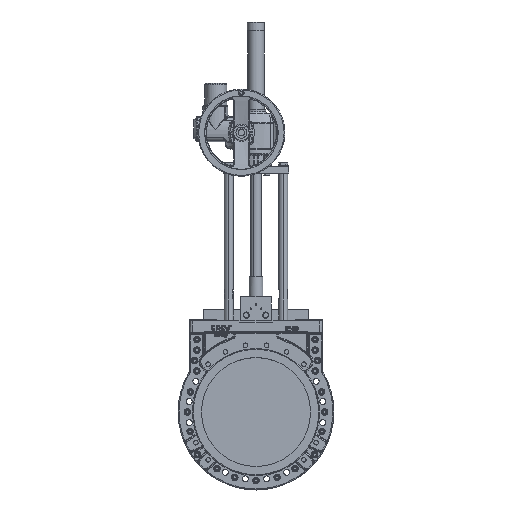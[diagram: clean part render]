
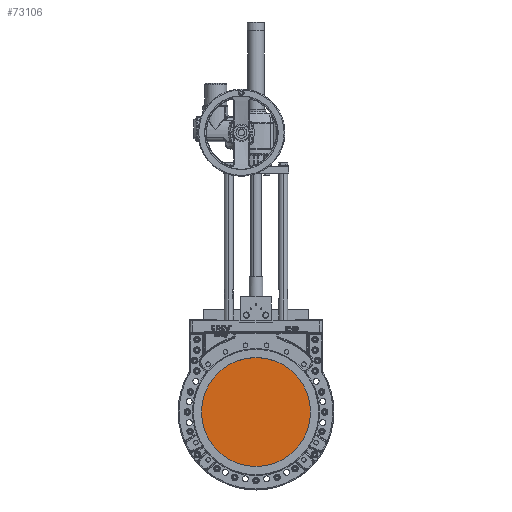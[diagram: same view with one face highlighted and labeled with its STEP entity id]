
A CAD part, top view. The second image highlights one B-rep face of the part: STEP entity #73106.
In plain terms, the highlighted planar face has unit normal (0, 0, 1).
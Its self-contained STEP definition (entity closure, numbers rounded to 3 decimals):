
#13997 = AXIS2_PLACEMENT_3D ( 'NONE', #85479, #194167, #101152 ) ;
#20518 = CARTESIAN_POINT ( 'NONE',  ( 0., 0., -0.25 ) ) ;
#47285 = CARTESIAN_POINT ( 'NONE',  ( 0., 0., -0.25 ) ) ;
#51815 = DIRECTION ( 'NONE',  ( 0., 0., 1. ) ) ;
#60079 = FACE_OUTER_BOUND ( 'NONE', #179344, .T. ) ;
#62947 = DIRECTION ( 'NONE',  ( 1., 0., 0. ) ) ;
#73106 = ADVANCED_FACE ( 'NONE', ( #60079 ), #98170, .T. ) ;
#85479 = CARTESIAN_POINT ( 'NONE',  ( 0., 0., -0.25 ) ) ;
#90614 = CIRCLE ( 'NONE', #13997, 250. ) ;
#98170 = PLANE ( 'NONE',  #107119 ) ;
#101152 = DIRECTION ( 'NONE',  ( 1., 0., 0. ) ) ;
#107119 = AXIS2_PLACEMENT_3D ( 'NONE', #20518, #51815, #160742 ) ;
#107631 = CARTESIAN_POINT ( 'NONE',  ( 250., 0., -0.25 ) ) ;
#119685 = CIRCLE ( 'NONE', #182272, 250. ) ;
#133724 = VERTEX_POINT ( 'NONE', #107631 ) ;
#134204 = VERTEX_POINT ( 'NONE', #173922 ) ;
#156200 = DIRECTION ( 'NONE',  ( 0., 0., 1. ) ) ;
#160742 = DIRECTION ( 'NONE',  ( 1., 0., 0. ) ) ;
#173922 = CARTESIAN_POINT ( 'NONE',  ( -250., 0., -0.25 ) ) ;
#179344 = EDGE_LOOP ( 'NONE', ( #188212, #193494 ) ) ;
#182272 = AXIS2_PLACEMENT_3D ( 'NONE', #47285, #156200, #62947 ) ;
#185080 = EDGE_CURVE ( 'NONE', #134204, #133724, #119685, .T. ) ;
#188212 = ORIENTED_EDGE ( 'NONE', *, *, #185080, .T. ) ;
#189145 = EDGE_CURVE ( 'NONE', #133724, #134204, #90614, .T. ) ;
#193494 = ORIENTED_EDGE ( 'NONE', *, *, #189145, .T. ) ;
#194167 = DIRECTION ( 'NONE',  ( 0., 0., 1. ) ) ;
